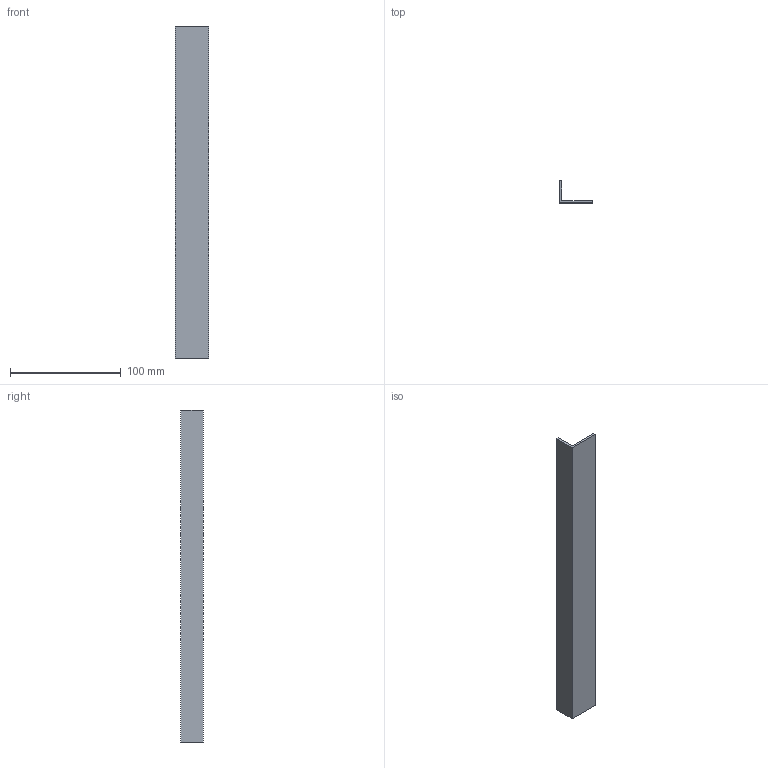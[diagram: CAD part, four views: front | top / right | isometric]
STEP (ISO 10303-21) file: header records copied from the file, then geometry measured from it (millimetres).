
FILE_DESCRIPTION (( 'STEP AP203' ), '1' );
FILE_NAME ('43-2-20-30褒臏.STEP', '2015-07-07T03:58:19', ( '' ), ( '' ), 'SwSTEP 2.0', 'SolidWorks 2013', '' );
FILE_SCHEMA (( 'CONFIG_CONTROL_DESIGN' ));
Length unit declared in the file: millimetre
Products named in the file (1): 43-2-20-30褒臏
Bounding box: 30 x 20 x 300 mm (x, y, z)
Volume: 28800 mm3; surface area: 30192 mm2
Topology: 1 solids, 1 shells, 8 faces, 18 edges, 12 vertices
Faces by surface type: plane 8
Entity records: 299 total; most frequent: CARTESIAN_POINT 39, ORIENTED_EDGE 36, DIRECTION 36, EDGE_CURVE 18, LINE 18, VECTOR 18, VERTEX_POINT 12, AXIS2_PLACEMENT_3D 9
